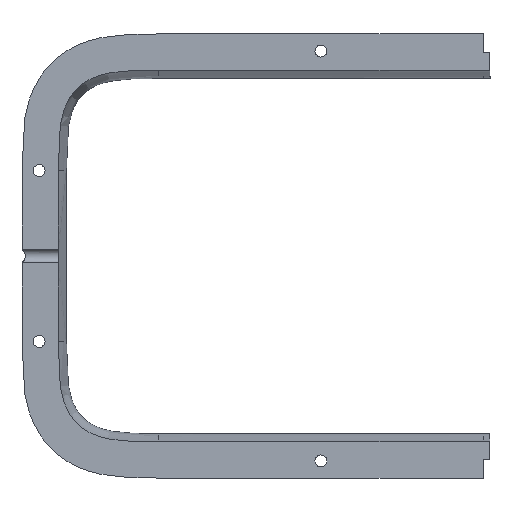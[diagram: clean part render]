
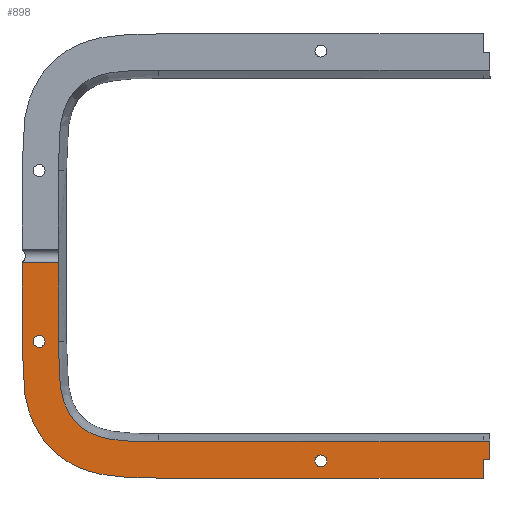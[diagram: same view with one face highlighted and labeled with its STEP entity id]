
A CAD part, top view. The second image highlights one B-rep face of the part: STEP entity #898.
In plain terms, the highlighted planar face has unit normal (0, 0, 1).
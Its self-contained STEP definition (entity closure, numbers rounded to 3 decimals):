
#60=FACE_BOUND('',#154,.T.);
#61=FACE_BOUND('',#155,.T.);
#66=CIRCLE('',#966,1.75);
#67=CIRCLE('',#967,1.75);
#84=PLANE('',#965);
#100=FACE_OUTER_BOUND('',#153,.T.);
#153=EDGE_LOOP('',(#614,#615,#616,#617,#618,#619,#620,#621,#622,#623,#624));
#154=EDGE_LOOP('',(#625));
#155=EDGE_LOOP('',(#626));
#213=B_SPLINE_CURVE_WITH_KNOTS('',3,(#1286,#1287,#1288,#1289,#1290,#1291,
#1292,#1293,#1294,#1295,#1296,#1297,#1298,#1299,#1300,#1301,#1302,#1303,
#1304),.UNSPECIFIED.,.F.,.F.,(4,3,3,3,3,3,4),(0.,0.186,0.357,
0.522,0.691,0.874,1.),.UNSPECIFIED.);
#214=B_SPLINE_CURVE_WITH_KNOTS('',3,(#1318,#1319,#1320,#1321,#1322,#1323,
#1324,#1325,#1326,#1327,#1328,#1329),.UNSPECIFIED.,.F.,.F.,(4,2,2,2,2,4),
(-9.243,-6.08,-4.472,-2.846,
-1.606,0.),.UNSPECIFIED.);
#248=LINE('',#1208,#317);
#249=LINE('',#1284,#318);
#250=LINE('',#1306,#319);
#251=LINE('',#1308,#320);
#252=LINE('',#1310,#321);
#253=LINE('',#1312,#322);
#254=LINE('',#1314,#323);
#255=LINE('',#1316,#324);
#256=LINE('',#1330,#325);
#317=VECTOR('',#1015,10.);
#318=VECTOR('',#1018,10.);
#319=VECTOR('',#1019,10.);
#320=VECTOR('',#1020,10.);
#321=VECTOR('',#1021,10.);
#322=VECTOR('',#1022,10.);
#323=VECTOR('',#1023,10.);
#324=VECTOR('',#1024,10.);
#325=VECTOR('',#1025,10.);
#387=VERTEX_POINT('',#1178);
#388=VERTEX_POINT('',#1207);
#389=VERTEX_POINT('',#1283);
#390=VERTEX_POINT('',#1285);
#391=VERTEX_POINT('',#1305);
#392=VERTEX_POINT('',#1307);
#393=VERTEX_POINT('',#1309);
#394=VERTEX_POINT('',#1311);
#395=VERTEX_POINT('',#1313);
#396=VERTEX_POINT('',#1315);
#397=VERTEX_POINT('',#1317);
#398=VERTEX_POINT('',#1331);
#399=VERTEX_POINT('',#1333);
#473=EDGE_CURVE('',#388,#387,#248,.T.);
#475=EDGE_CURVE('',#389,#387,#249,.T.);
#476=EDGE_CURVE('',#389,#390,#213,.T.);
#477=EDGE_CURVE('',#391,#390,#250,.T.);
#478=EDGE_CURVE('',#391,#392,#251,.T.);
#479=EDGE_CURVE('',#392,#393,#252,.T.);
#480=EDGE_CURVE('',#394,#393,#253,.T.);
#481=EDGE_CURVE('',#395,#394,#254,.T.);
#482=EDGE_CURVE('',#396,#395,#255,.T.);
#483=EDGE_CURVE('',#397,#396,#214,.T.);
#484=EDGE_CURVE('',#388,#397,#256,.T.);
#485=EDGE_CURVE('',#398,#398,#66,.T.);
#486=EDGE_CURVE('',#399,#399,#67,.T.);
#614=ORIENTED_EDGE('',*,*,#473,.T.);
#615=ORIENTED_EDGE('',*,*,#475,.F.);
#616=ORIENTED_EDGE('',*,*,#476,.T.);
#617=ORIENTED_EDGE('',*,*,#477,.F.);
#618=ORIENTED_EDGE('',*,*,#478,.T.);
#619=ORIENTED_EDGE('',*,*,#479,.T.);
#620=ORIENTED_EDGE('',*,*,#480,.F.);
#621=ORIENTED_EDGE('',*,*,#481,.F.);
#622=ORIENTED_EDGE('',*,*,#482,.F.);
#623=ORIENTED_EDGE('',*,*,#483,.F.);
#624=ORIENTED_EDGE('',*,*,#484,.F.);
#625=ORIENTED_EDGE('',*,*,#485,.F.);
#626=ORIENTED_EDGE('',*,*,#486,.F.);
#898=ADVANCED_FACE('',(#100,#60,#61),#84,.T.);
#965=AXIS2_PLACEMENT_3D('',#1282,#1016,#1017);
#966=AXIS2_PLACEMENT_3D('',#1332,#1026,#1027);
#967=AXIS2_PLACEMENT_3D('',#1334,#1028,#1029);
#1015=DIRECTION('',(-1.,0.,0.));
#1016=DIRECTION('center_axis',(0.,0.,1.));
#1017=DIRECTION('ref_axis',(-1.,0.,0.));
#1018=DIRECTION('',(0.,1.,0.));
#1019=DIRECTION('',(-1.,0.,0.));
#1020=DIRECTION('',(0.,1.,0.));
#1021=DIRECTION('',(1.,0.,0.));
#1022=DIRECTION('',(0.,-1.,0.));
#1023=DIRECTION('',(1.,0.,0.));
#1024=DIRECTION('',(1.,0.,0.));
#1025=DIRECTION('',(0.,-1.,0.));
#1026=DIRECTION('center_axis',(0.,0.,1.));
#1027=DIRECTION('ref_axis',(-1.,0.,0.));
#1028=DIRECTION('center_axis',(0.,0.,1.));
#1029=DIRECTION('ref_axis',(-1.,0.,0.));
#1178=CARTESIAN_POINT('',(-135.,-2.,-88.5));
#1207=CARTESIAN_POINT('',(-124.4,-2.,-88.5));
#1208=CARTESIAN_POINT('',(-129.7,-2.,-88.5));
#1282=CARTESIAN_POINT('Origin',(-67.5,32.5,-88.5));
#1283=CARTESIAN_POINT('',(-135.,-25.,-88.5));
#1284=CARTESIAN_POINT('',(-135.,0.,-88.5));
#1285=CARTESIAN_POINT('',(-95.,-65.,-88.5));
#1286=CARTESIAN_POINT('Ctrl Pts',(-135.,-25.,-88.5));
#1287=CARTESIAN_POINT('Ctrl Pts',(-135.,-29.65,-88.5));
#1288=CARTESIAN_POINT('Ctrl Pts',(-134.998,-33.821,-88.5));
#1289=CARTESIAN_POINT('Ctrl Pts',(-134.537,-37.883,-88.5));
#1290=CARTESIAN_POINT('Ctrl Pts',(-134.112,-41.624,-88.5));
#1291=CARTESIAN_POINT('Ctrl Pts',(-133.285,-45.277,-88.5));
#1292=CARTESIAN_POINT('Ctrl Pts',(-131.746,-48.699,-88.5));
#1293=CARTESIAN_POINT('Ctrl Pts',(-130.272,-51.978,-88.5));
#1294=CARTESIAN_POINT('Ctrl Pts',(-128.12,-55.009,-88.5));
#1295=CARTESIAN_POINT('Ctrl Pts',(-125.406,-57.428,-88.5));
#1296=CARTESIAN_POINT('Ctrl Pts',(-122.612,-59.918,-88.5));
#1297=CARTESIAN_POINT('Ctrl Pts',(-119.272,-61.727,-88.5));
#1298=CARTESIAN_POINT('Ctrl Pts',(-115.773,-62.879,-88.5));
#1299=CARTESIAN_POINT('Ctrl Pts',(-111.983,-64.127,-88.5));
#1300=CARTESIAN_POINT('Ctrl Pts',(-108.034,-64.643,-88.5));
#1301=CARTESIAN_POINT('Ctrl Pts',(-103.923,-64.854,-88.5));
#1302=CARTESIAN_POINT('Ctrl Pts',(-101.086,-64.999,-88.5));
#1303=CARTESIAN_POINT('Ctrl Pts',(-98.158,-65.,-88.5));
#1304=CARTESIAN_POINT('Ctrl Pts',(-95.,-65.,-88.5));
#1305=CARTESIAN_POINT('',(0.,-65.,-88.5));
#1306=CARTESIAN_POINT('',(0.,-65.,-88.5));
#1307=CARTESIAN_POINT('',(0.,-59.7,-88.5));
#1308=CARTESIAN_POINT('',(0.,-65.,-88.5));
#1309=CARTESIAN_POINT('',(2.,-59.7,-88.5));
#1310=CARTESIAN_POINT('',(0.,-59.7,-88.5));
#1311=CARTESIAN_POINT('',(2.,-54.4,-88.5));
#1312=CARTESIAN_POINT('',(2.,-59.7,-88.5));
#1313=CARTESIAN_POINT('',(0.,-54.4,-88.5));
#1314=CARTESIAN_POINT('',(0.,-54.4,-88.5));
#1315=CARTESIAN_POINT('',(-95.,-54.4,-88.5));
#1316=CARTESIAN_POINT('',(-95.,-54.4,-88.5));
#1317=CARTESIAN_POINT('',(-124.4,-25.,-88.5));
#1318=CARTESIAN_POINT('Ctrl Pts',(-124.4,-25.,-88.5));
#1319=CARTESIAN_POINT('Ctrl Pts',(-124.4,-31.793,-88.5));
#1320=CARTESIAN_POINT('Ctrl Pts',(-124.35,-36.682,-88.5));
#1321=CARTESIAN_POINT('Ctrl Pts',(-122.642,-43.293,-88.5));
#1322=CARTESIAN_POINT('Ctrl Pts',(-121.811,-45.196,-88.5));
#1323=CARTESIAN_POINT('Ctrl Pts',(-119.602,-48.453,-88.5));
#1324=CARTESIAN_POINT('Ctrl Pts',(-118.244,-49.774,-88.5));
#1325=CARTESIAN_POINT('Ctrl Pts',(-115.491,-51.603,-88.5));
#1326=CARTESIAN_POINT('Ctrl Pts',(-113.311,-52.779,-88.5));
#1327=CARTESIAN_POINT('Ctrl Pts',(-105.482,-54.419,-88.5));
#1328=CARTESIAN_POINT('Ctrl Pts',(-100.356,-54.4,-88.5));
#1329=CARTESIAN_POINT('Ctrl Pts',(-95.,-54.4,-88.5));
#1330=CARTESIAN_POINT('',(-124.4,0.,-88.5));
#1331=CARTESIAN_POINT('',(-128.25,-25.,-88.5));
#1332=CARTESIAN_POINT('Origin',(-130.,-25.,-88.5));
#1333=CARTESIAN_POINT('',(-45.75,-60.,-88.5));
#1334=CARTESIAN_POINT('Origin',(-47.5,-60.,-88.5));
